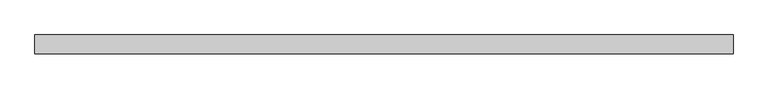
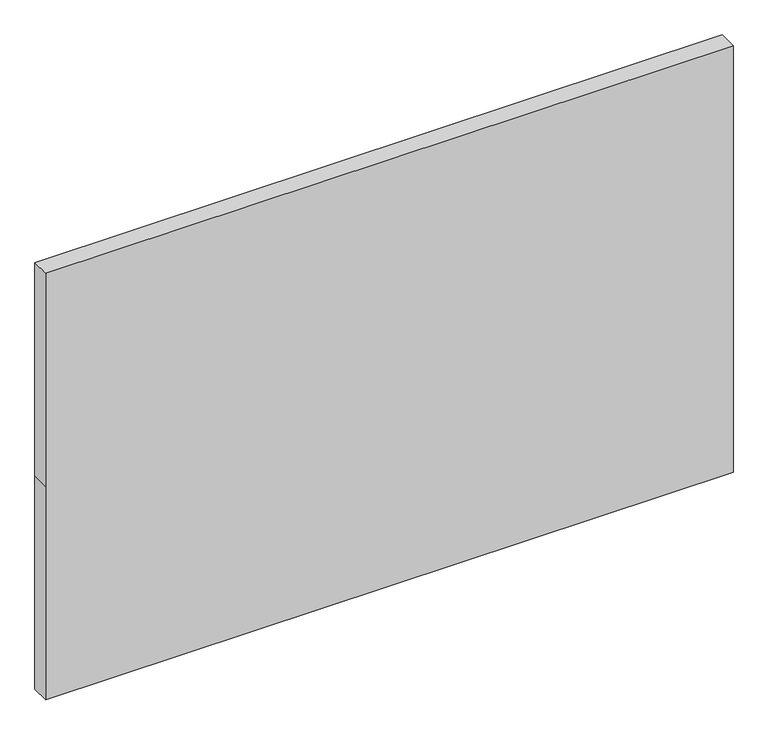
"""IFC4 building model written with IfcOpenShell, lengths in millimetres: plate geometry, 系统嵌板 : 玻璃."""

from ifc_helpers import new_model, si_unit, frame, origin, place, context, project, spatial, polyline, outline, extrude, source, transform, mapped, element, save


def plate_6a3ab0c2(model_context):
    return source(origin(), model_context, "Body", "SweptSolid", [
        extrude(outline(polyline([(0.0, -1105.0), (0.0, 1105.0), (725.0, 1105.0), (1450.0, 1105.0), (1450.0, -1105.0), (725.0, -1105.0), (0.0, -1105.0)])), frame((0.0, -30.0, 0.0), z_axis=(0.0, 1.0, 0.0), x_axis=(0.0, 0.0, 1.0)), (0.0, 0.0, 1.0), 60.0),
    ])


if __name__ == "__main__":
    model = new_model("IFC4")
    model_context = context("Model", 3, world=origin())
    ifc_project = project(units=[si_unit("LENGTHUNIT", "METRE", prefix="MILLI")], contexts=[model_context])
    site = spatial("IfcSite", under=ifc_project)
    building = spatial("IfcBuilding", under=site)
    placement = place(None, origin())
    plate_shape = plate_6a3ab0c2(model_context)
    element("IfcPlate", 1, ObjectType="系统嵌板 : 玻璃", at=placement, inside=building, context=model_context, shape_type="MappedRepresentation", body=[
        mapped(plate_shape, transform((0.0, 0.0, 0.0), x_axis=(1.0, 0.0, 0.0), y_axis=(0.0, 1.0, 0.0), z_axis=(0.0, 0.0, 1.0))),
    ])
    save(model, "model.ifc")
